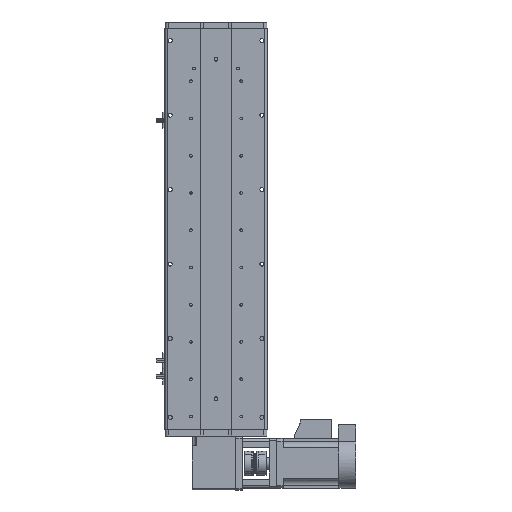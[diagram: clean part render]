
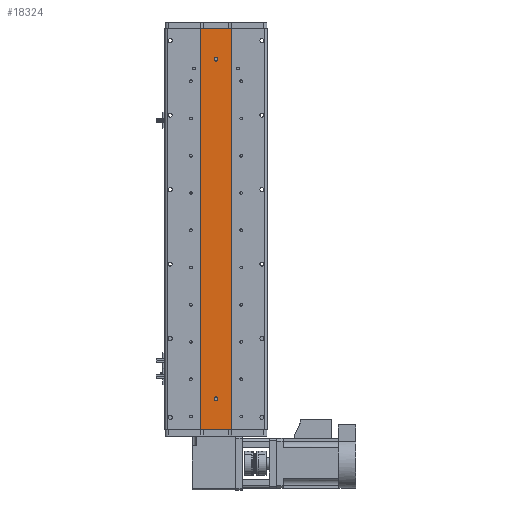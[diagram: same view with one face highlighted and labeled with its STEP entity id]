
A CAD part, front view. The second image highlights one B-rep face of the part: STEP entity #18324.
In plain terms, the highlighted planar face has unit normal (0, -1, 0).
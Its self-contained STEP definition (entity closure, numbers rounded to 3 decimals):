
#215 = EDGE_CURVE ( 'NONE', #20725, #6843, #25358, .T. ) ;
#278 = VERTEX_POINT ( 'NONE', #27723 ) ;
#512 = VECTOR ( 'NONE', #22861, 1000. ) ;
#799 = EDGE_LOOP ( 'NONE', ( #1754, #34655 ) ) ;
#1754 = ORIENTED_EDGE ( 'NONE', *, *, #3713, .T. ) ;
#2380 = PLANE ( 'NONE',  #27417 ) ;
#2947 = DIRECTION ( 'NONE',  ( 0., 0., -1. ) ) ;
#3713 = EDGE_CURVE ( 'NONE', #13851, #8051, #39287, .T. ) ;
#3960 = CARTESIAN_POINT ( 'NONE',  ( 0., 1., -273.5 ) ) ;
#4435 = ORIENTED_EDGE ( 'NONE', *, *, #6619, .F. ) ;
#5603 = VECTOR ( 'NONE', #35424, 1000. ) ;
#5853 = DIRECTION ( 'NONE',  ( 0., 1., 0. ) ) ;
#5909 = CARTESIAN_POINT ( 'NONE',  ( 25., 1., 323.5 ) ) ;
#6619 = EDGE_CURVE ( 'NONE', #20725, #23653, #12094, .T. ) ;
#6843 = VERTEX_POINT ( 'NONE', #42580 ) ;
#7503 = DIRECTION ( 'NONE',  ( 0., 0., 1. ) ) ;
#8051 = VERTEX_POINT ( 'NONE', #28161 ) ;
#8728 = EDGE_CURVE ( 'NONE', #278, #35422, #8779, .T. ) ;
#8779 = CIRCLE ( 'NONE', #40691, 3. ) ;
#8945 = AXIS2_PLACEMENT_3D ( 'NONE', #3960, #28575, #7503 ) ;
#9333 = DIRECTION ( 'NONE',  ( 0., 1., 0. ) ) ;
#10053 = CARTESIAN_POINT ( 'NONE',  ( -25., 1., 323.5 ) ) ;
#12094 = LINE ( 'NONE', #29817, #512 ) ;
#13022 = AXIS2_PLACEMENT_3D ( 'NONE', #13947, #38529, #17462 ) ;
#13851 = VERTEX_POINT ( 'NONE', #29834 ) ;
#13911 = EDGE_CURVE ( 'NONE', #23653, #28298, #44939, .T. ) ;
#13914 = ORIENTED_EDGE ( 'NONE', *, *, #13911, .F. ) ;
#13947 = CARTESIAN_POINT ( 'NONE',  ( 0., 1., -273.5 ) ) ;
#14382 = CARTESIAN_POINT ( 'NONE',  ( 25., 1., -323.5 ) ) ;
#14585 = ORIENTED_EDGE ( 'NONE', *, *, #39222, .T. ) ;
#16889 = CIRCLE ( 'NONE', #13022, 3. ) ;
#17462 = DIRECTION ( 'NONE',  ( 0., 0., 1. ) ) ;
#18211 = AXIS2_PLACEMENT_3D ( 'NONE', #40102, #19007, #43671 ) ;
#18324 = ADVANCED_FACE ( 'NONE', ( #36218, #18623, #27987 ), #2380, .F. ) ;
#18623 = FACE_BOUND ( 'NONE', #45636, .T. ) ;
#18969 = EDGE_CURVE ( 'NONE', #8051, #13851, #16889, .T. ) ;
#19007 = DIRECTION ( 'NONE',  ( 0., 1., 0. ) ) ;
#19638 = DIRECTION ( 'NONE',  ( 0., 0., -1. ) ) ;
#20307 = ORIENTED_EDGE ( 'NONE', *, *, #215, .T. ) ;
#20725 = VERTEX_POINT ( 'NONE', #39005 ) ;
#22861 = DIRECTION ( 'NONE',  ( 1., 0., 0. ) ) ;
#23653 = VERTEX_POINT ( 'NONE', #29101 ) ;
#24451 = ORIENTED_EDGE ( 'NONE', *, *, #45376, .T. ) ;
#25358 = LINE ( 'NONE', #10053, #43010 ) ;
#26940 = CARTESIAN_POINT ( 'NONE',  ( 0., 1., 273.5 ) ) ;
#27247 = VECTOR ( 'NONE', #19638, 1000. ) ;
#27417 = AXIS2_PLACEMENT_3D ( 'NONE', #5909, #9333, #34054 ) ;
#27723 = CARTESIAN_POINT ( 'NONE',  ( 0., 1., 276.5 ) ) ;
#27987 = FACE_OUTER_BOUND ( 'NONE', #31273, .T. ) ;
#28161 = CARTESIAN_POINT ( 'NONE',  ( 0., 1., -270.5 ) ) ;
#28298 = VERTEX_POINT ( 'NONE', #30455 ) ;
#28575 = DIRECTION ( 'NONE',  ( 0., 1., 0. ) ) ;
#29101 = CARTESIAN_POINT ( 'NONE',  ( 25., 1., 323.5 ) ) ;
#29817 = CARTESIAN_POINT ( 'NONE',  ( 25., 1., 323.5 ) ) ;
#29834 = CARTESIAN_POINT ( 'NONE',  ( 0., 1., -276.5 ) ) ;
#30455 = CARTESIAN_POINT ( 'NONE',  ( 25., 1., -323.5 ) ) ;
#30506 = DIRECTION ( 'NONE',  ( 0., 0., 1. ) ) ;
#31273 = EDGE_LOOP ( 'NONE', ( #14585, #13914, #4435, #20307 ) ) ;
#31496 = LINE ( 'NONE', #14382, #5603 ) ;
#34054 = DIRECTION ( 'NONE',  ( 0., 0., 1. ) ) ;
#34655 = ORIENTED_EDGE ( 'NONE', *, *, #18969, .T. ) ;
#35422 = VERTEX_POINT ( 'NONE', #41966 ) ;
#35424 = DIRECTION ( 'NONE',  ( 1., 0., 0. ) ) ;
#36218 = FACE_BOUND ( 'NONE', #799, .T. ) ;
#38529 = DIRECTION ( 'NONE',  ( 0., 1., 0. ) ) ;
#39005 = CARTESIAN_POINT ( 'NONE',  ( -25., 1., 323.5 ) ) ;
#39222 = EDGE_CURVE ( 'NONE', #6843, #28298, #31496, .T. ) ;
#39287 = CIRCLE ( 'NONE', #8945, 3. ) ;
#40102 = CARTESIAN_POINT ( 'NONE',  ( 0., 1., 273.5 ) ) ;
#40691 = AXIS2_PLACEMENT_3D ( 'NONE', #26940, #5853, #30506 ) ;
#40751 = CARTESIAN_POINT ( 'NONE',  ( 25., 1., 323.5 ) ) ;
#41651 = ORIENTED_EDGE ( 'NONE', *, *, #8728, .T. ) ;
#41966 = CARTESIAN_POINT ( 'NONE',  ( 0., 1., 270.5 ) ) ;
#42580 = CARTESIAN_POINT ( 'NONE',  ( -25., 1., -323.5 ) ) ;
#43010 = VECTOR ( 'NONE', #2947, 1000. ) ;
#43671 = DIRECTION ( 'NONE',  ( 0., 0., 1. ) ) ;
#44939 = LINE ( 'NONE', #40751, #27247 ) ;
#45099 = CIRCLE ( 'NONE', #18211, 3. ) ;
#45376 = EDGE_CURVE ( 'NONE', #35422, #278, #45099, .T. ) ;
#45636 = EDGE_LOOP ( 'NONE', ( #24451, #41651 ) ) ;
